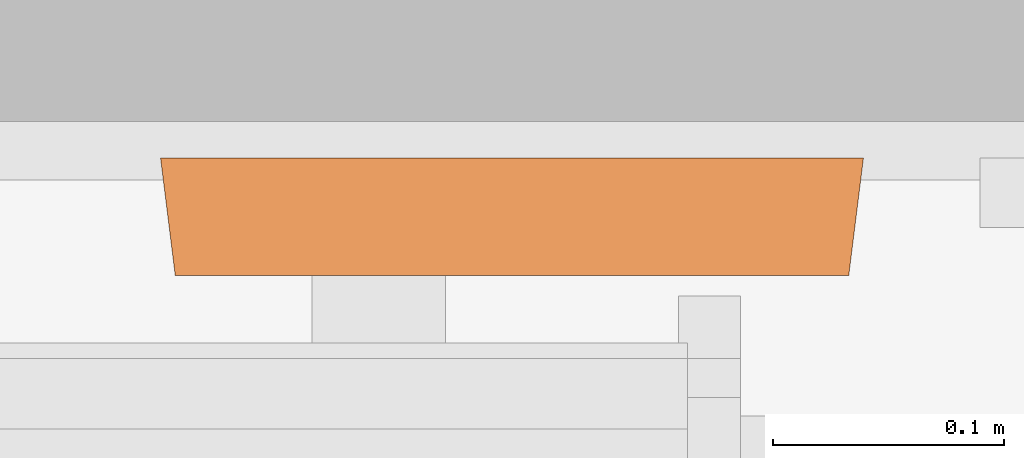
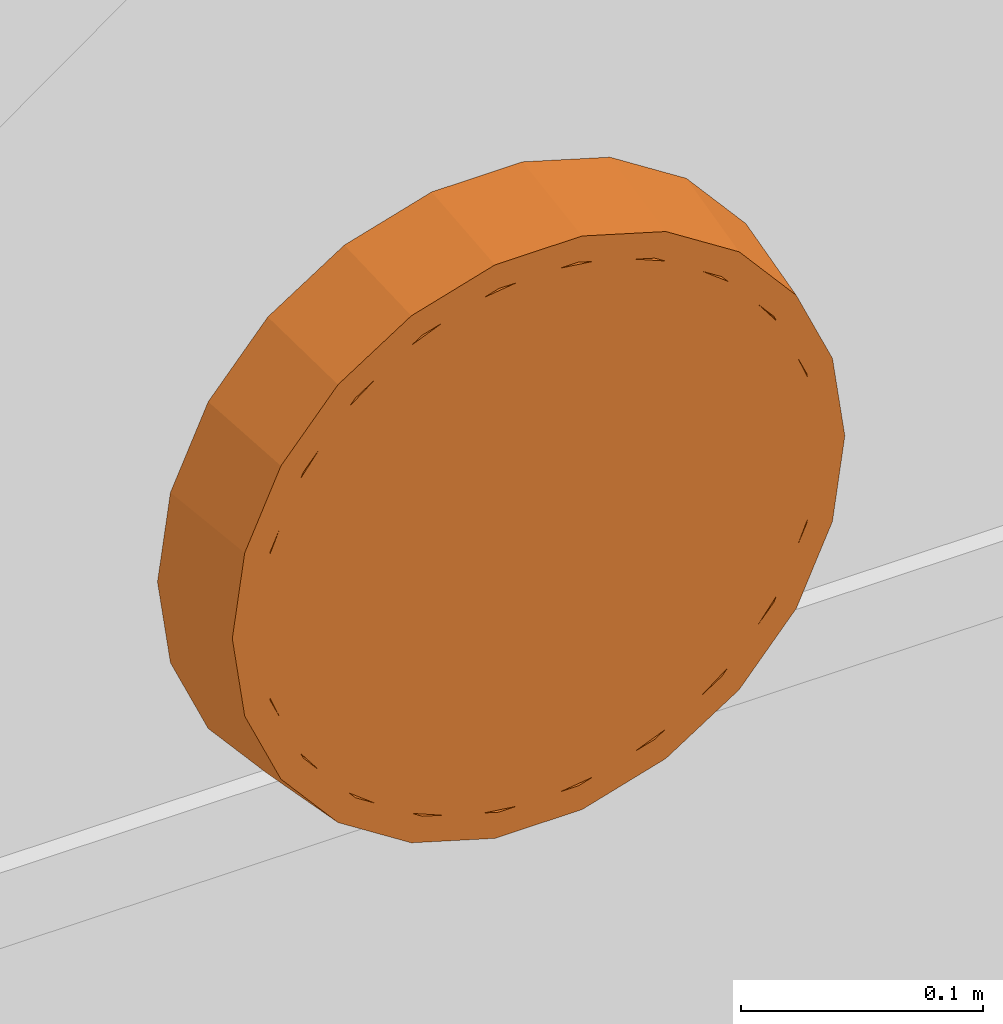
# One storey, part 126 of 142: 1 proxy.
"""IFC2X3 building model written with IfcOpenShell, lengths in feet."""

from ifc_helpers import new_model, entity, si_unit, converted_unit, derived_unit, direction, frame, origin, place, context, subcontext, project, spatial, faceted_brep, source, transform, mapped, type_object, type_shapes, element, save


model = new_model("IFC2X3")

# Units and contexts
model_context = context("Model", 3, precision=0.0001, world=origin(), true_north=direction((6.12303176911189e-17, 1.0)))
body_context = subcontext(model_context, "Body", "Model", "MODEL_VIEW")
ifc_project = project(units=[converted_unit("LENGTHUNIT", "FOOT", entity("IfcRatioMeasure", 0.3048), si_unit("LENGTHUNIT", "METRE"), dimensions=[1, 0, 0, 0, 0, 0, 0]), converted_unit("AREAUNIT", "SQUARE FOOT", entity("IfcRatioMeasure", 0.09290304), si_unit("AREAUNIT", "SQUARE_METRE"), dimensions=[2, 0, 0, 0, 0, 0, 0]), converted_unit("VOLUMEUNIT", "CUBIC FOOT", entity("IfcRatioMeasure", 0.028316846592), si_unit("VOLUMEUNIT", "CUBIC_METRE"), dimensions=[3, 0, 0, 0, 0, 0, 0]), converted_unit("PLANEANGLEUNIT", "DEGREE", entity("IfcRatioMeasure", 0.0174532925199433), si_unit("PLANEANGLEUNIT", "RADIAN"), dimensions=[0, 0, 0, 0, 0, 0, 0]), si_unit("MASSUNIT", "GRAM", prefix="KILO"), derived_unit("MASSDENSITYUNIT", [(si_unit("MASSUNIT", "GRAM", prefix="KILO"), 1), (si_unit("LENGTHUNIT", "METRE"), -3)]), si_unit("TIMEUNIT", "SECOND"), si_unit("FREQUENCYUNIT", "HERTZ"), si_unit("THERMODYNAMICTEMPERATUREUNIT", "DEGREE_CELSIUS"), derived_unit("THERMALTRANSMITTANCEUNIT", [(si_unit("MASSUNIT", "GRAM", prefix="KILO"), 1), (si_unit("THERMODYNAMICTEMPERATUREUNIT", "KELVIN"), -1), (si_unit("TIMEUNIT", "SECOND"), -3)]), derived_unit("VOLUMETRICFLOWRATEUNIT", [(si_unit("LENGTHUNIT", "METRE"), 3), (si_unit("TIMEUNIT", "SECOND"), -1)]), si_unit("ELECTRICCURRENTUNIT", "AMPERE"), si_unit("ELECTRICVOLTAGEUNIT", "VOLT"), si_unit("POWERUNIT", "WATT"), si_unit("FORCEUNIT", "NEWTON"), si_unit("ILLUMINANCEUNIT", "LUX"), si_unit("LUMINOUSFLUXUNIT", "LUMEN"), si_unit("LUMINOUSINTENSITYUNIT", "CANDELA"), derived_unit("USERDEFINED", [(si_unit("MASSUNIT", "GRAM", prefix="KILO"), -1), (si_unit("LENGTHUNIT", "METRE"), -2), (si_unit("TIMEUNIT", "SECOND"), 3), (si_unit("LUMINOUSFLUXUNIT", "LUMEN"), 1)]), derived_unit("LINEARVELOCITYUNIT", [(si_unit("LENGTHUNIT", "METRE"), 1), (si_unit("TIMEUNIT", "SECOND"), -1)]), si_unit("PRESSUREUNIT", "PASCAL"), derived_unit("USERDEFINED", [(si_unit("LENGTHUNIT", "METRE"), -2), (si_unit("MASSUNIT", "GRAM", prefix="KILO"), 1), (si_unit("TIMEUNIT", "SECOND"), -2)])], contexts=[model_context])

# Site, building, storey, space
site_placement = place(None, origin())
site = spatial("IfcSite", under=ifc_project, at=site_placement, Name="Default", CompositionType="ELEMENT")
building_placement = place(site_placement, origin())
building = spatial("IfcBuilding", under=site, at=building_placement, Name="OUTPATIENT / PACT CLINIC (Ch. 265)", CompositionType="ELEMENT")
storey_placement = place(building_placement, origin())
storey = spatial("IfcBuildingStorey", under=building, at=storey_placement, Name="LEVEL 1", CompositionType="ELEMENT", Elevation=0.0)
space_placement = place(storey_placement, origin())
space = spatial("IfcSpace", under=storey, at=space_placement, Name="EXPA01", CompositionType="ELEMENT", InteriorOrExteriorSpace="INTERNAL")

# Proxy
building_element_proxy_type = type_object("IfcBuildingElementProxyType", Name="F3200 - Clock, Battery, 12in Dia", PredefinedType="NOTDEFINED")
shared_shape = source(origin(), body_context, "Body", "Brep", [
    faceted_brep([(0.0527623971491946, -0.166666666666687, -0.0087350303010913), (0.143371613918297, -0.166666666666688, 0.0607918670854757), (0.212898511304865, -0.16666666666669, 0.151401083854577), (0.256604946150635, -0.166666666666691, 0.256917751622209), (0.271512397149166, -0.166666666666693, 0.370151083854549), (0.256604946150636, -0.166666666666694, 0.483384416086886), (0.212898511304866, -0.166666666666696, 0.588901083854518), (0.143371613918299, -0.166666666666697, 0.67951030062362), (0.052762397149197, -0.166666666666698, 0.749037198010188), (-0.0527542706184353, -0.166666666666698, 0.792743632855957), (-0.165987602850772, -0.166666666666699, 0.807651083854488), (-0.279220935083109, -0.166666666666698, 0.792743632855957), (-0.384737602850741, -0.166666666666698, 0.749037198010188), (-0.475346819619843, -0.166666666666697, 0.679510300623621), (-0.544873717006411, -0.166666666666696, 0.588901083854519), (-0.588580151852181, -0.166666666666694, 0.483384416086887), (-0.603487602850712, -0.166666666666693, 0.37015108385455), (-0.588580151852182, -0.166666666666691, 0.256917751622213), (-0.544873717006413, -0.16666666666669, 0.151401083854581), (-0.475346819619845, -0.166666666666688, 0.0607918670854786), (-0.384737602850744, -0.166666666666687, -0.0087350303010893), (-0.279220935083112, -0.166666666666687, -0.052441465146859), (-0.165987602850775, -0.166666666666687, -0.0673489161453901), (-0.0527542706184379, -0.166666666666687, -0.0524414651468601), (0.256604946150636, -0.145833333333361, 0.483384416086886), (0.271512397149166, -0.145833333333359, 0.370151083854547), (0.256604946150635, -0.145833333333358, 0.256917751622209), (0.212898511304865, -0.145833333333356, 0.151401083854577), (0.143371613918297, -0.145833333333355, 0.0607918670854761), (0.0527623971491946, -0.145833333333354, -0.00873503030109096), (-0.0527542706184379, -0.145833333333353, -0.0524414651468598), (-0.165987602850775, -0.145833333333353, -0.0673489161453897), (-0.279220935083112, -0.145833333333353, -0.0524414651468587), (-0.384737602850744, -0.145833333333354, -0.00873503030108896), (-0.475346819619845, -0.145833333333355, 0.060791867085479), (-0.544873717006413, -0.145833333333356, 0.151401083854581), (-0.588580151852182, -0.145833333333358, 0.256917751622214), (-0.603487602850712, -0.145833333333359, 0.37015108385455), (-0.588580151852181, -0.145833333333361, 0.483384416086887), (-0.544873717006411, -0.145833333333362, 0.588901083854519), (-0.475346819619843, -0.145833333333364, 0.679510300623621), (-0.384737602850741, -0.145833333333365, 0.749037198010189), (-0.279220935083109, -0.145833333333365, 0.792743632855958), (-0.165987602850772, -0.145833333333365, 0.807651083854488), (-0.0527542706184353, -0.145833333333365, 0.792743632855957), (0.052762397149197, -0.145833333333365, 0.749037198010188), (0.143371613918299, -0.145833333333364, 0.67951030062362), (0.212898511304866, -0.145833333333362, 0.588901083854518)], [[[0, 1, 2, 3, 4, 5, 6, 7, 8, 9, 10, 11, 12, 13, 14, 15, 16, 17, 18, 19, 20, 21, 22, 23]], [[24, 25, 26, 27, 28, 29, 30, 31, 32, 33, 34, 35, 36, 37, 38, 39, 40, 41, 42, 43, 44, 45, 46, 47]], [[36, 17, 16, 37]], [[35, 18, 17, 36]], [[20, 19, 34, 33]], [[35, 34, 19, 18]], [[21, 20, 33, 32]], [[22, 21, 32, 31]], [[30, 23, 22, 31]], [[29, 0, 23, 30]], [[2, 1, 28, 27]], [[29, 28, 1, 0]], [[3, 2, 27, 26]], [[4, 3, 26, 25]], [[24, 5, 4, 25]], [[47, 6, 5, 24]], [[8, 7, 46, 45]], [[47, 46, 7, 6]], [[9, 8, 45, 44]], [[10, 9, 44, 43]], [[11, 10, 43, 42]], [[12, 11, 42, 41]], [[14, 39, 38, 15]], [[15, 38, 37, 16]], [[12, 41, 40, 13]], [[40, 39, 14, 13]]]),
    faceted_brep([(-0.493417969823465, 0.0, -0.00772370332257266), (-0.586614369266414, 0.0, 0.0998306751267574), (-0.165987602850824, 0.0, 0.370151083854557), (-0.373695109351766, 0.0, -0.0846649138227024), (-0.645734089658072, 0.0, 0.229284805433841), (-0.665987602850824, 0.0, 0.370151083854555), (-0.645734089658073, 0.0, 0.51101736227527), (-0.586614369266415, 0.0, 0.640471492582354), (-0.493417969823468, 0.0, 0.748025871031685), (-0.373695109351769, 0.0, 0.824967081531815), (-0.237145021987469, 0.0, 0.865061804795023), (-0.0948301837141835, 0.0, 0.865061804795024), (0.0417199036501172, 0.0, 0.824967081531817), (0.161442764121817, 0.0, 0.748025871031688), (0.254639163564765, 0.0, 0.640471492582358), (0.313758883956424, 0.0, 0.511017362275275), (0.334012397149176, 0.0, 0.370151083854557), (0.313758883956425, 0.0, 0.229284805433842), (0.254639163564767, 0.0, 0.0998306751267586), (0.161442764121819, 0.0, -0.00772370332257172), (0.0417199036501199, 0.0, -0.0846649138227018), (-0.0948301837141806, 0.0, -0.124759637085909), (-0.237145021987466, 0.0, -0.124759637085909), (-0.165987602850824, -0.145833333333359, 0.370151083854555), (-0.534036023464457, -0.145833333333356, 0.133620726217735), (-0.452489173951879, -0.145833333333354, 0.0395106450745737), (-0.585765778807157, -0.145833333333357, 0.246893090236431), (-0.347731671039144, -0.145833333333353, -0.0278129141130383), (-0.228250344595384, -0.145833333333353, -0.0628957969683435), (-0.603487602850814, -0.145833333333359, 0.370151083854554), (-0.103724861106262, -0.145833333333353, -0.0628957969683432), (0.0157564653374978, -0.145833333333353, -0.0278129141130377), (0.120513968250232, -0.145833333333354, 0.0395106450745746), (0.20206081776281, -0.145833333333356, 0.133620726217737), (0.253790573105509, -0.145833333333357, 0.246893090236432), (0.271512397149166, -0.145833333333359, 0.370151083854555), (-0.585765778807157, -0.145833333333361, 0.493409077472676), (-0.534036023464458, -0.145833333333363, 0.606681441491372), (-0.452489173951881, -0.145833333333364, 0.700791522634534), (-0.347731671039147, -0.145833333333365, 0.768115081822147), (-0.228250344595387, -0.145833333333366, 0.803197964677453), (0.253790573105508, -0.145833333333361, 0.49340907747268), (0.202060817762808, -0.145833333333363, 0.606681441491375), (0.12051396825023, -0.145833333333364, 0.700791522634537), (0.0157564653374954, -0.145833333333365, 0.768115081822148), (-0.103724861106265, -0.145833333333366, 0.803197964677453), (0.253790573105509, -0.166666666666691, 0.246893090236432), (0.271512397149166, -0.166666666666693, 0.370151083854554), (0.20206081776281, -0.166666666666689, 0.133620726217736), (-0.103724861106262, -0.166666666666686, -0.0628957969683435), (0.0157564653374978, -0.166666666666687, -0.0278129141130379), (0.120513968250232, -0.166666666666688, 0.0395106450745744), (-0.228250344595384, -0.166666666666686, -0.0628957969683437), (-0.452489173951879, -0.166666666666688, 0.0395106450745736), (-0.347731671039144, -0.166666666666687, -0.0278129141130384), (-0.603487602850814, -0.166666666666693, 0.370151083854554), (-0.585765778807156, -0.166666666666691, 0.246893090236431), (-0.534036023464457, -0.166666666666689, 0.133620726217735), (-0.585765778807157, -0.166666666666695, 0.493409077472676), (-0.534036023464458, -0.166666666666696, 0.606681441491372), (-0.347731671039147, -0.166666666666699, 0.768115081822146), (-0.452489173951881, -0.166666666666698, 0.700791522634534), (-0.228250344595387, -0.166666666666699, 0.803197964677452), (-0.103724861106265, -0.166666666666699, 0.803197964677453), (0.0157564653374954, -0.166666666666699, 0.768115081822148), (0.12051396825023, -0.166666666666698, 0.700791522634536), (0.253790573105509, -0.166666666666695, 0.493409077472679), (0.202060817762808, -0.166666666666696, 0.606681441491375), (-0.62574465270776, -0.166666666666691, 0.235154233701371), (-0.64515426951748, -0.166666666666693, 0.370151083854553), (-0.569088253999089, -0.166666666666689, 0.111094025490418), (-0.479775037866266, -0.166666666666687, 0.00802107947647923), (-0.365040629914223, -0.166666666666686, -0.0657142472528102), (-0.234180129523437, -0.166666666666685, -0.104138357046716), (-0.0977950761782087, -0.166666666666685, -0.104138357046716), (0.0330654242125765, -0.166666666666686, -0.0657142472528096), (0.147799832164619, -0.166666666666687, 0.00802107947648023), (0.237113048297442, -0.166666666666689, 0.11109402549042), (0.293769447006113, -0.166666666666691, 0.235154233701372), (0.313179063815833, -0.166666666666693, 0.370151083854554), (0.293769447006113, -0.166666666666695, 0.50514793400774), (0.237113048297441, -0.166666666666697, 0.629208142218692), (0.147799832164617, -0.166666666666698, 0.732281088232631), (0.0330654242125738, -0.1666666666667, 0.80601641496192), (-0.0977950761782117, -0.1666666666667, 0.844440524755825), (-0.23418012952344, -0.1666666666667, 0.844440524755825), (-0.365040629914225, -0.1666666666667, 0.806016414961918), (-0.479775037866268, -0.166666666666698, 0.732281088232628), (-0.569088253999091, -0.166666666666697, 0.629208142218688), (-0.625744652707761, -0.166666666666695, 0.505147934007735)], [[[0, 1, 2]], [[0, 2, 3]], [[4, 2, 1]], [[2, 4, 5]], [[5, 6, 2]], [[2, 6, 7]], [[2, 7, 8]], [[2, 8, 9]], [[9, 10, 2]], [[11, 2, 10]], [[2, 11, 12]], [[2, 12, 13]], [[14, 2, 13]], [[2, 14, 15]], [[15, 16, 2]], [[2, 16, 17]], [[2, 17, 18]], [[18, 19, 2]], [[19, 20, 2]], [[21, 2, 20]], [[2, 21, 22]], [[22, 3, 2]], [[23, 24, 25]], [[24, 23, 26]], [[27, 23, 25]], [[23, 27, 28]], [[29, 26, 23]], [[28, 30, 23]], [[31, 23, 30]], [[23, 31, 32]], [[23, 32, 33]], [[33, 34, 23]], [[34, 35, 23]], [[23, 36, 29]], [[37, 36, 23]], [[38, 37, 23]], [[39, 38, 23]], [[23, 40, 39]], [[23, 35, 41]], [[41, 42, 23]], [[43, 23, 42]], [[43, 44, 23]], [[44, 45, 23]], [[40, 23, 45]], [[46, 47, 35, 34]], [[46, 34, 33, 48]], [[31, 30, 49, 50]], [[32, 31, 50, 51]], [[51, 48, 33, 32]], [[30, 28, 52, 49]], [[27, 25, 53, 54]], [[28, 27, 54, 52]], [[29, 55, 56, 26]], [[26, 56, 57, 24]], [[24, 57, 53, 25]], [[55, 29, 36, 58]], [[58, 36, 37, 59]], [[60, 61, 38, 39]], [[59, 37, 38, 61]], [[39, 40, 62, 60]], [[40, 45, 63, 62]], [[64, 63, 45, 44]], [[64, 44, 43, 65]], [[41, 35, 47, 66]], [[42, 41, 66, 67]], [[67, 65, 43, 42]], [[68, 55, 69]], [[56, 55, 68]], [[68, 70, 56]], [[70, 57, 56]], [[71, 57, 70]], [[57, 71, 53]], [[72, 53, 71]], [[54, 53, 72]], [[72, 73, 54]], [[73, 52, 54]], [[49, 52, 73]], [[73, 74, 49]], [[74, 50, 49]], [[75, 50, 74]], [[50, 75, 51]], [[76, 51, 75]], [[48, 51, 76]], [[76, 77, 48]], [[77, 46, 48]], [[78, 46, 77]], [[46, 78, 47]], [[78, 79, 47]], [[79, 80, 47]], [[66, 47, 80]], [[80, 81, 66]], [[66, 81, 67]], [[82, 67, 81]], [[67, 82, 65]], [[65, 82, 83]], [[64, 65, 83]], [[83, 84, 64]], [[64, 84, 63]], [[85, 63, 84]], [[63, 85, 62]], [[62, 85, 60]], [[86, 60, 85]], [[60, 86, 61]], [[61, 86, 87]], [[59, 61, 87]], [[87, 88, 59]], [[59, 88, 58]], [[89, 58, 88]], [[55, 89, 69]], [[58, 89, 55]], [[78, 17, 16, 79]], [[77, 18, 17, 78]], [[19, 76, 75, 20]], [[77, 76, 19, 18]], [[20, 75, 74, 21]], [[74, 73, 22, 21]], [[22, 73, 72, 3]], [[0, 3, 72, 71]], [[4, 1, 70, 68]], [[70, 1, 0, 71]], [[5, 4, 68, 69]], [[89, 6, 5, 69]], [[88, 7, 6, 89]], [[8, 87, 86, 9]], [[88, 87, 8, 7]], [[9, 86, 85, 10]], [[85, 84, 11, 10]], [[83, 12, 11, 84]], [[82, 13, 12, 83]], [[14, 81, 80, 15]], [[82, 81, 14, 13]], [[15, 80, 79, 16]]]),
])
type_shapes(building_element_proxy_type, [shared_shape])
proxy_placement = place(space_placement, frame((397.489351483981, -876.420519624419, 6.50000000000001)))
element("IfcBuildingElementProxy", 1, at=proxy_placement, inside=space, type_object=building_element_proxy_type, Name="F3200 - Clock, Battery, 12in Dia:F3200 - Clock, Battery, 12in Dia", ObjectType="F3200 - Clock, Battery, 12in Dia", context=body_context, shape_type="MappedRepresentation", body=[
    mapped(shared_shape, transform((0.0, 0.0, 0.0), scale=1.0)),
])

save(model, "model.ifc")
